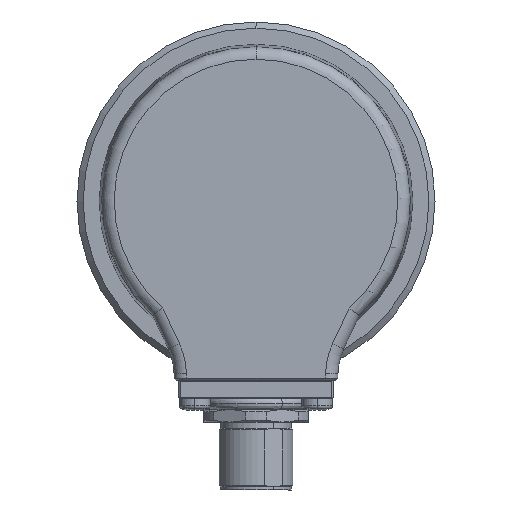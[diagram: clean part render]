
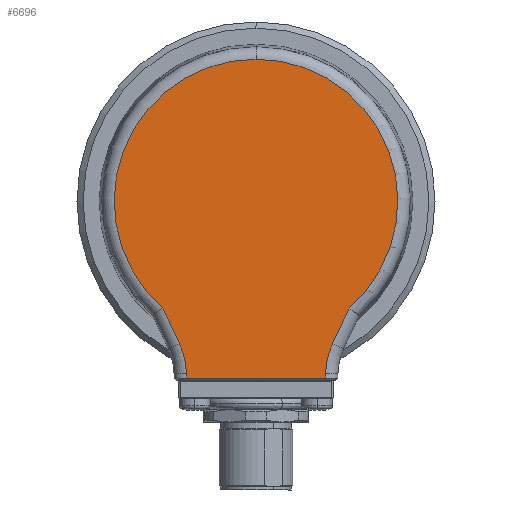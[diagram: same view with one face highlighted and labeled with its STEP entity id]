
A CAD part, left-side view. The second image highlights one B-rep face of the part: STEP entity #6696.
In plain terms, the highlighted planar face has unit normal (-1, 0, 0).
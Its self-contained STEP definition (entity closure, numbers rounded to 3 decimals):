
#136 = DIRECTION ( 'NONE',  ( 0., 0., 1. ) ) ;
#756 = DIRECTION ( 'NONE',  ( -1., 0., 0. ) ) ;
#957 = FACE_OUTER_BOUND ( 'NONE', #11938, .T. ) ;
#1112 = CIRCLE ( 'NONE', #14784, 22.972 ) ;
#1904 = DIRECTION ( 'NONE',  ( 1., 0., 0. ) ) ;
#2598 = CIRCLE ( 'NONE', #18366, 12. ) ;
#2979 = VECTOR ( 'NONE', #5069, 1000. ) ;
#3157 = VERTEX_POINT ( 'NONE', #10777 ) ;
#3443 = LINE ( 'NONE', #14316, #2979 ) ;
#3708 = EDGE_CURVE ( 'NONE', #17635, #9222, #2598, .T. ) ;
#3746 = CARTESIAN_POINT ( 'NONE',  ( -21., -11.268, -27.974 ) ) ;
#4132 = DIRECTION ( 'NONE',  ( 0., -1., 0. ) ) ;
#4250 = DIRECTION ( 'NONE',  ( 1., 0., 0. ) ) ;
#4285 = EDGE_CURVE ( 'NONE', #8734, #14810, #10779, .T. ) ;
#4300 = DIRECTION ( 'NONE',  ( -1., 0., 0. ) ) ;
#4406 = CARTESIAN_POINT ( 'NONE',  ( -21., 11.268, -27.974 ) ) ;
#4629 = EDGE_CURVE ( 'NONE', #10531, #10007, #12686, .T. ) ;
#4752 = AXIS2_PLACEMENT_3D ( 'NONE', #6298, #9376, #136 ) ;
#5069 = DIRECTION ( 'NONE',  ( 0., -0.423, 0.906 ) ) ;
#5263 = ORIENTED_EDGE ( 'NONE', *, *, #16286, .T. ) ;
#5294 = LINE ( 'NONE', #18594, #8906 ) ;
#5548 = LINE ( 'NONE', #18675, #12755 ) ;
#6135 = CARTESIAN_POINT ( 'NONE',  ( -21., -11.255, -28.695 ) ) ;
#6298 = CARTESIAN_POINT ( 'NONE',  ( -21., 0., 0. ) ) ;
#6628 = EDGE_CURVE ( 'NONE', #14810, #9463, #5548, .T. ) ;
#6696 = ADVANCED_FACE ( 'NONE', ( #957 ), #18619, .F. ) ;
#7422 = CARTESIAN_POINT ( 'NONE',  ( -21., 11.255, -28.695 ) ) ;
#7948 = ORIENTED_EDGE ( 'NONE', *, *, #4285, .T. ) ;
#8079 = ORIENTED_EDGE ( 'NONE', *, *, #15062, .T. ) ;
#8734 = VERTEX_POINT ( 'NONE', #9872 ) ;
#8906 = VECTOR ( 'NONE', #14566, 1000. ) ;
#9222 = VERTEX_POINT ( 'NONE', #11410 ) ;
#9376 = DIRECTION ( 'NONE',  ( 1., 0., 0. ) ) ;
#9446 = DIRECTION ( 'NONE',  ( 0., -0.017, -1. ) ) ;
#9463 = VERTEX_POINT ( 'NONE', #7422 ) ;
#9528 = DIRECTION ( 'NONE',  ( 0., -0.423, -0.906 ) ) ;
#9872 = CARTESIAN_POINT ( 'NONE',  ( -21., 12.39, -23.112 ) ) ;
#9984 = CARTESIAN_POINT ( 'NONE',  ( -21., 0., 0. ) ) ;
#10007 = VERTEX_POINT ( 'NONE', #19742 ) ;
#10229 = CARTESIAN_POINT ( 'NONE',  ( -21., 0., 22.972 ) ) ;
#10332 = VERTEX_POINT ( 'NONE', #6135 ) ;
#10422 = EDGE_CURVE ( 'NONE', #10332, #17635, #5294, .T. ) ;
#10531 = VERTEX_POINT ( 'NONE', #10229 ) ;
#10772 = LINE ( 'NONE', #17230, #11747 ) ;
#10777 = CARTESIAN_POINT ( 'NONE',  ( -21., -15.091, -17.32 ) ) ;
#10779 = CIRCLE ( 'NONE', #12032, 12. ) ;
#11144 = CARTESIAN_POINT ( 'NONE',  ( -21., -23.266, -28.183 ) ) ;
#11410 = CARTESIAN_POINT ( 'NONE',  ( -21., -12.39, -23.112 ) ) ;
#11539 = DIRECTION ( 'NONE',  ( 0., 0., 1. ) ) ;
#11710 = VECTOR ( 'NONE', #4132, 1000. ) ;
#11747 = VECTOR ( 'NONE', #9528, 1000. ) ;
#11938 = EDGE_LOOP ( 'NONE', ( #18138, #8079, #12789, #15073, #5263, #15163, #18199, #18915, #7948 ) ) ;
#12001 = EDGE_CURVE ( 'NONE', #10007, #8734, #10772, .T. ) ;
#12032 = AXIS2_PLACEMENT_3D ( 'NONE', #13498, #4250, #15046 ) ;
#12686 = CIRCLE ( 'NONE', #18879, 22.972 ) ;
#12691 = DIRECTION ( 'NONE',  ( 0., 0., 1. ) ) ;
#12755 = VECTOR ( 'NONE', #9446, 1000. ) ;
#12789 = ORIENTED_EDGE ( 'NONE', *, *, #10422, .T. ) ;
#13378 = CARTESIAN_POINT ( 'NONE',  ( -21., -11.25, -28.695 ) ) ;
#13498 = CARTESIAN_POINT ( 'NONE',  ( -21., 23.266, -28.183 ) ) ;
#13546 = CARTESIAN_POINT ( 'NONE',  ( -21., 0., 0. ) ) ;
#14316 = CARTESIAN_POINT ( 'NONE',  ( -21., -14.953, -17.615 ) ) ;
#14566 = DIRECTION ( 'NONE',  ( 0., -0.017, 1. ) ) ;
#14784 = AXIS2_PLACEMENT_3D ( 'NONE', #9984, #756, #11539 ) ;
#14810 = VERTEX_POINT ( 'NONE', #4406 ) ;
#15046 = DIRECTION ( 'NONE',  ( 0., 0., 1. ) ) ;
#15062 = EDGE_CURVE ( 'NONE', #9463, #10332, #15810, .T. ) ;
#15073 = ORIENTED_EDGE ( 'NONE', *, *, #3708, .T. ) ;
#15085 = DIRECTION ( 'NONE',  ( 0., 0., 1. ) ) ;
#15163 = ORIENTED_EDGE ( 'NONE', *, *, #18714, .T. ) ;
#15810 = LINE ( 'NONE', #13378, #11710 ) ;
#16286 = EDGE_CURVE ( 'NONE', #9222, #3157, #3443, .T. ) ;
#17230 = CARTESIAN_POINT ( 'NONE',  ( -21., 12.39, -23.112 ) ) ;
#17635 = VERTEX_POINT ( 'NONE', #3746 ) ;
#18138 = ORIENTED_EDGE ( 'NONE', *, *, #6628, .T. ) ;
#18199 = ORIENTED_EDGE ( 'NONE', *, *, #4629, .T. ) ;
#18366 = AXIS2_PLACEMENT_3D ( 'NONE', #11144, #1904, #12691 ) ;
#18594 = CARTESIAN_POINT ( 'NONE',  ( -21., -11.752, -0.205 ) ) ;
#18619 = PLANE ( 'NONE',  #4752 ) ;
#18675 = CARTESIAN_POINT ( 'NONE',  ( -21., 11.752, -0.205 ) ) ;
#18714 = EDGE_CURVE ( 'NONE', #3157, #10531, #1112, .T. ) ;
#18879 = AXIS2_PLACEMENT_3D ( 'NONE', #13546, #4300, #15085 ) ;
#18915 = ORIENTED_EDGE ( 'NONE', *, *, #12001, .T. ) ;
#19742 = CARTESIAN_POINT ( 'NONE',  ( -21., 15.091, -17.32 ) ) ;
